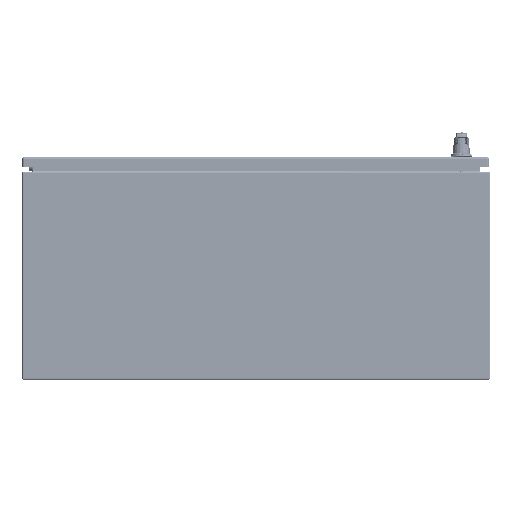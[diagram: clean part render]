
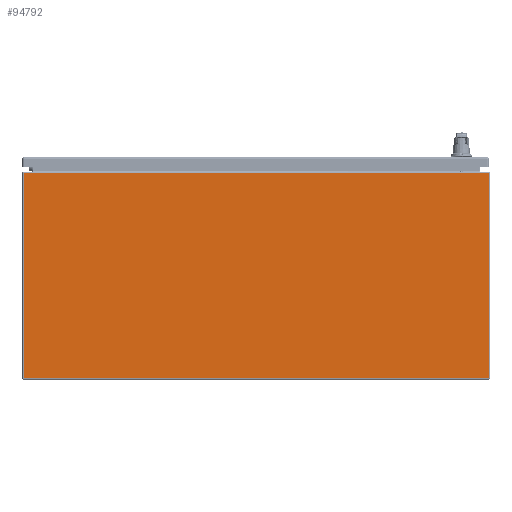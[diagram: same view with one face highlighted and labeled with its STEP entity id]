
A CAD part, front view. The second image highlights one B-rep face of the part: STEP entity #94792.
In plain terms, the highlighted planar face has unit normal (0, -1, 0).
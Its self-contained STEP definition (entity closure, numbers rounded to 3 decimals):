
#8402=LINE('',#134845,#14595);
#8405=LINE('',#134867,#14598);
#8406=LINE('',#134869,#14599);
#8407=LINE('',#134870,#14600);
#14595=VECTOR('',#110751,0.394);
#14598=VECTOR('',#110782,0.394);
#14599=VECTOR('',#110783,0.394);
#14600=VECTOR('',#110784,0.394);
#22349=FACE_OUTER_BOUND('',#28186,.T.);
#28186=EDGE_LOOP('',(#63362,#63363,#63364,#63365));
#38679=VERTEX_POINT('',#134834);
#38682=VERTEX_POINT('',#134844);
#38687=VERTEX_POINT('',#134866);
#38688=VERTEX_POINT('',#134868);
#48245=EDGE_CURVE('',#38679,#38682,#8402,.T.);
#48256=EDGE_CURVE('',#38687,#38679,#8405,.T.);
#48257=EDGE_CURVE('',#38687,#38688,#8406,.T.);
#48258=EDGE_CURVE('',#38682,#38688,#8407,.T.);
#63362=ORIENTED_EDGE('',*,*,#48245,.F.);
#63363=ORIENTED_EDGE('',*,*,#48256,.F.);
#63364=ORIENTED_EDGE('',*,*,#48257,.T.);
#63365=ORIENTED_EDGE('',*,*,#48258,.F.);
#92876=PLANE('',#101741);
#94792=ADVANCED_FACE('',(#22349),#92876,.T.);
#101741=AXIS2_PLACEMENT_3D('',#134865,#110780,#110781);
#110751=DIRECTION('',(1.,0.,0.));
#110780=DIRECTION('center_axis',(0.,-1.,0.));
#110781=DIRECTION('ref_axis',(-1.,0.,0.));
#110782=DIRECTION('',(0.,0.,1.));
#110783=DIRECTION('',(1.,0.,0.));
#110784=DIRECTION('',(0.,0.,-1.));
#134834=CARTESIAN_POINT('',(-17.901,-21.,15.901));
#134844=CARTESIAN_POINT('',(17.901,-21.,15.901));
#134845=CARTESIAN_POINT('',(0.025,-21.,15.901));
#134865=CARTESIAN_POINT('Origin',(18.,-21.,16.));
#134866=CARTESIAN_POINT('',(-17.901,-21.,0.099));
#134867=CARTESIAN_POINT('',(-17.901,-21.,8.));
#134868=CARTESIAN_POINT('',(17.901,-21.,0.099));
#134869=CARTESIAN_POINT('',(-8.951,-21.,0.099));
#134870=CARTESIAN_POINT('',(17.901,-21.,8.));
